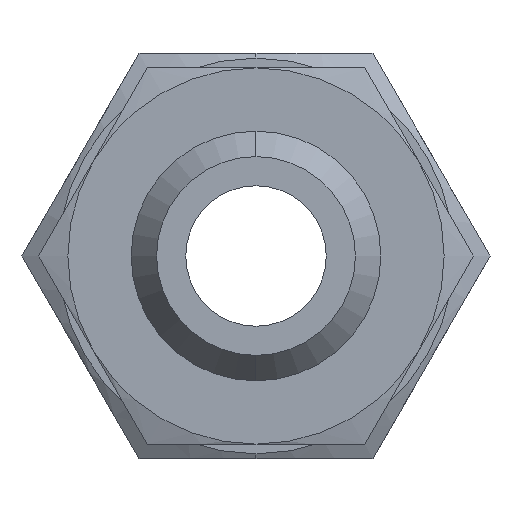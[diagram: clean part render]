
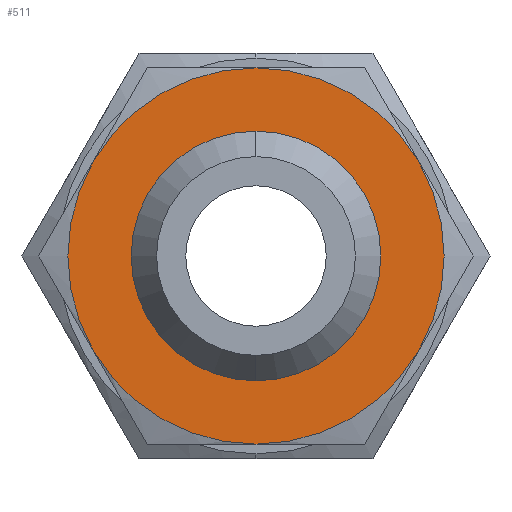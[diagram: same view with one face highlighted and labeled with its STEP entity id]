
A CAD part, left-side view. The second image highlights one B-rep face of the part: STEP entity #511.
In plain terms, the highlighted planar face has unit normal (-1, 0, 0).
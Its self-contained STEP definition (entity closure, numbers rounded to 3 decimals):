
#293 = CIRCLE ( 'NONE', #303, 6.85 ) ;
#294 = CARTESIAN_POINT ( 'NONE',  ( 0., 0., -6.85 ) ) ;
#300 = DIRECTION ( 'NONE',  ( 0., 0., -1. ) ) ;
#301 = DIRECTION ( 'NONE',  ( -1., 0., 0. ) ) ;
#302 = CARTESIAN_POINT ( 'NONE',  ( 0., 0., 0. ) ) ;
#303 = AXIS2_PLACEMENT_3D ( 'NONE', #302, #301, #300 ) ;
#307 = CARTESIAN_POINT ( 'NONE',  ( 0., 0., 6.85 ) ) ;
#483 = VERTEX_POINT ( 'NONE', #871 ) ;
#498 = EDGE_LOOP ( 'NONE', ( #518, #520 ) ) ;
#511 = ADVANCED_FACE ( 'NONE', ( #911, #909 ), #919, .F. ) ;
#518 = ORIENTED_EDGE ( 'NONE', *, *, #519, .F. ) ;
#519 = EDGE_CURVE ( 'NONE', #1516, #1513, #956, .T. ) ;
#520 = ORIENTED_EDGE ( 'NONE', *, *, #1515, .F. ) ;
#521 = EDGE_LOOP ( 'NONE', ( #570, #572, #574, #556, #558, #560 ) ) ;
#523 = VERTEX_POINT ( 'NONE', #951 ) ;
#528 = VERTEX_POINT ( 'NONE', #978 ) ;
#556 = ORIENTED_EDGE ( 'NONE', *, *, #557, .F. ) ;
#557 = EDGE_CURVE ( 'NONE', #483, #626, #1041, .T. ) ;
#558 = ORIENTED_EDGE ( 'NONE', *, *, #559, .T. ) ;
#559 = EDGE_CURVE ( 'NONE', #483, #523, #1036, .T. ) ;
#560 = ORIENTED_EDGE ( 'NONE', *, *, #561, .F. ) ;
#561 = EDGE_CURVE ( 'NONE', #528, #523, #1069, .T. ) ;
#570 = ORIENTED_EDGE ( 'NONE', *, *, #571, .F. ) ;
#571 = EDGE_CURVE ( 'NONE', #645, #528, #1098, .T. ) ;
#572 = ORIENTED_EDGE ( 'NONE', *, *, #573, .F. ) ;
#573 = EDGE_CURVE ( 'NONE', #630, #645, #1093, .T. ) ;
#574 = ORIENTED_EDGE ( 'NONE', *, *, #575, .F. ) ;
#575 = EDGE_CURVE ( 'NONE', #626, #630, #1088, .T. ) ;
#626 = VERTEX_POINT ( 'NONE', #1154 ) ;
#630 = VERTEX_POINT ( 'NONE', #1202 ) ;
#645 = VERTEX_POINT ( 'NONE', #1265 ) ;
#871 = CARTESIAN_POINT ( 'NONE',  ( 0., 0., 10.32 ) ) ;
#909 = FACE_OUTER_BOUND ( 'NONE', #521, .T. ) ;
#911 = FACE_BOUND ( 'NONE', #498, .T. ) ;
#918 = CARTESIAN_POINT ( 'NONE',  ( 0., 11.917, 0. ) ) ;
#919 = PLANE ( 'NONE',  #929 ) ;
#927 = DIRECTION ( 'NONE',  ( 0., 0., -1. ) ) ;
#928 = DIRECTION ( 'NONE',  ( 1., 0., 0. ) ) ;
#929 = AXIS2_PLACEMENT_3D ( 'NONE', #918, #928, #927 ) ;
#951 = CARTESIAN_POINT ( 'NONE',  ( 0., 8.937, 5.16 ) ) ;
#952 = DIRECTION ( 'NONE',  ( 0., 0., -1. ) ) ;
#953 = DIRECTION ( 'NONE',  ( -1., 0., 0. ) ) ;
#954 = CARTESIAN_POINT ( 'NONE',  ( 0., 0., 0. ) ) ;
#955 = AXIS2_PLACEMENT_3D ( 'NONE', #954, #953, #952 ) ;
#956 = CIRCLE ( 'NONE', #955, 6.85 ) ;
#978 = CARTESIAN_POINT ( 'NONE',  ( 0., 8.937, -5.16 ) ) ;
#1033 = DIRECTION ( 'NONE',  ( 0., 0., 1. ) ) ;
#1034 = DIRECTION ( 'NONE',  ( -1., 0., 0. ) ) ;
#1035 = AXIS2_PLACEMENT_3D ( 'NONE', #1042, #1034, #1033 ) ;
#1036 = CIRCLE ( 'NONE', #1035, 10.32 ) ;
#1037 = CARTESIAN_POINT ( 'NONE',  ( 0., 0., 0. ) ) ;
#1038 = DIRECTION ( 'NONE',  ( 0., 0., -1. ) ) ;
#1039 = DIRECTION ( 'NONE',  ( 1., 0., 0. ) ) ;
#1040 = AXIS2_PLACEMENT_3D ( 'NONE', #1048, #1039, #1038 ) ;
#1041 = CIRCLE ( 'NONE', #1040, 10.32 ) ;
#1042 = CARTESIAN_POINT ( 'NONE',  ( 0., 0., 0. ) ) ;
#1048 = CARTESIAN_POINT ( 'NONE',  ( 0., 0., 0. ) ) ;
#1066 = DIRECTION ( 'NONE',  ( 0., 0., -1. ) ) ;
#1067 = DIRECTION ( 'NONE',  ( 1., 0., 0. ) ) ;
#1068 = AXIS2_PLACEMENT_3D ( 'NONE', #1037, #1067, #1066 ) ;
#1069 = CIRCLE ( 'NONE', #1068, 10.32 ) ;
#1084 = DIRECTION ( 'NONE',  ( 0., 0., -1. ) ) ;
#1085 = DIRECTION ( 'NONE',  ( 1., 0., 0. ) ) ;
#1086 = CARTESIAN_POINT ( 'NONE',  ( 0., 0., 0. ) ) ;
#1087 = AXIS2_PLACEMENT_3D ( 'NONE', #1086, #1085, #1084 ) ;
#1088 = CIRCLE ( 'NONE', #1087, 10.32 ) ;
#1089 = DIRECTION ( 'NONE',  ( 0., 0., -1. ) ) ;
#1090 = DIRECTION ( 'NONE',  ( 1., 0., 0. ) ) ;
#1091 = CARTESIAN_POINT ( 'NONE',  ( 0., 0., 0. ) ) ;
#1092 = AXIS2_PLACEMENT_3D ( 'NONE', #1091, #1090, #1089 ) ;
#1093 = CIRCLE ( 'NONE', #1092, 10.32 ) ;
#1094 = DIRECTION ( 'NONE',  ( 0., 0., -1. ) ) ;
#1095 = DIRECTION ( 'NONE',  ( 1., 0., 0. ) ) ;
#1096 = CARTESIAN_POINT ( 'NONE',  ( 0., 0., 0. ) ) ;
#1097 = AXIS2_PLACEMENT_3D ( 'NONE', #1096, #1095, #1094 ) ;
#1098 = CIRCLE ( 'NONE', #1097, 10.32 ) ;
#1154 = CARTESIAN_POINT ( 'NONE',  ( 0., -8.937, 5.16 ) ) ;
#1202 = CARTESIAN_POINT ( 'NONE',  ( 0., -8.937, -5.16 ) ) ;
#1265 = CARTESIAN_POINT ( 'NONE',  ( 0., 0., -10.32 ) ) ;
#1513 = VERTEX_POINT ( 'NONE', #307 ) ;
#1515 = EDGE_CURVE ( 'NONE', #1513, #1516, #293, .T. ) ;
#1516 = VERTEX_POINT ( 'NONE', #294 ) ;
